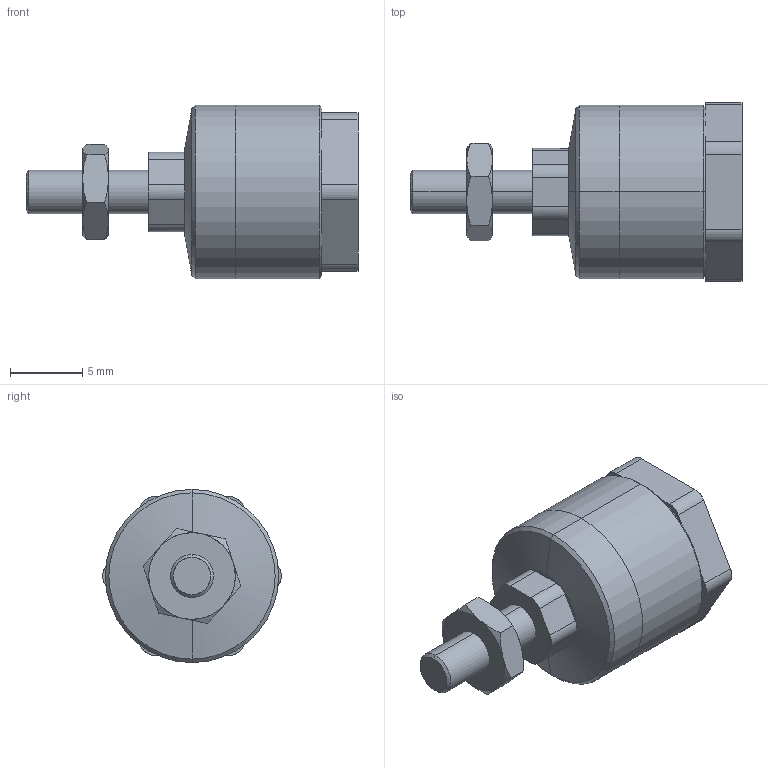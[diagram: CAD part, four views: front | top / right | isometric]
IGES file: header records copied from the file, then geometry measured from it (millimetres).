
Start section: SolidWorks IGES file using analytic representation for surfaces
Global section: file name: D:\MI\新增資料夾\FC\FCM3-0.5.IGS; native system: SolidWorks 2013; preprocessor: SolidWorks 2013; author: Sam Lin; date: 160323.113912; units: millimetre
Bounding box: 23 x 12.39 x 12 mm (x, y, z)
Surface area: 939.3 mm2 (no closed solid volume)
Topology: 0 solids, 0 shells, 91 faces, 774 edges, 772 vertices
Faces by surface type: bspline 59, revolution 32
